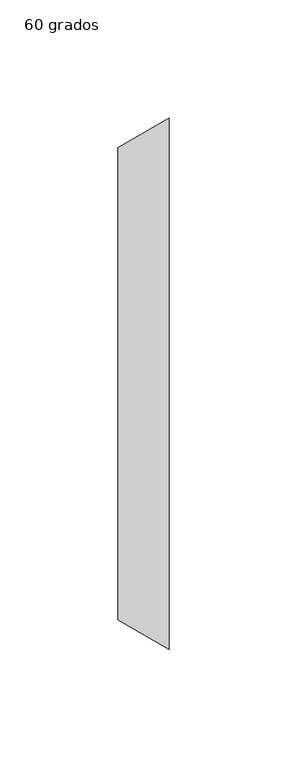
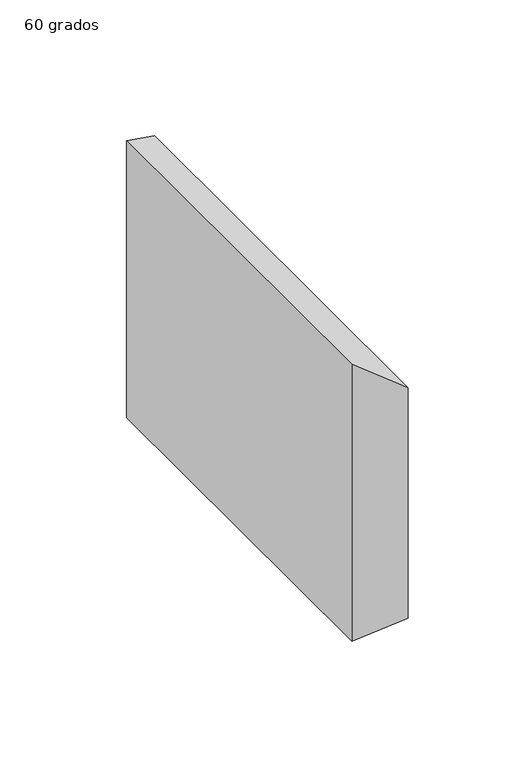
"""IFC4 building model written with IfcOpenShell, lengths in millimetres: duct fitting geometry, M_Transición rectangular - Ángulo : 60 grados."""

import ifcopenshell
import ifcopenshell.guid

model = None  # the IFC model being written
_history = None  # IfcOwnerHistory: only IFC2X3 demands one
_inside = {}  # id of a spatial element -> (the spatial element, [elements in it])
_under = {}  # id of a project, library or spatial element -> (it, [spatial elements below it])
_declared = {}  # id of a project -> (the project, [libraries it declares])
_typed = {}  # id of a type object -> (the type object, [elements of that type])
_made_of = {}  # id of a material, layer set ... -> (it, [elements and type objects made of it])


def new_model(schema):
    """Start an empty IFC model of exactly this schema.

    Asked for "IFC4X3", IfcOpenShell would pick the latest addendum, in which some entities
    have other attributes; the version numbers below select the first issue.
    IFC2X3 requires an IfcOwnerHistory on every rooted entity: one is made here for all.
    """
    global model, _history
    if schema == "IFC4X3":
        model = ifcopenshell.file(schema_version=(4, 3, 0, 0))
    else:
        model = ifcopenshell.file(schema=schema)
    _inside.clear()
    _under.clear()
    _declared.clear()
    _typed.clear()
    _made_of.clear()
    _history = None
    if model.schema == "IFC2X3":
        org = make("IfcOrganization", Name="unknown")
        user = make(
            "IfcPersonAndOrganization",
            ThePerson=make("IfcPerson", FamilyName="unknown"),
            TheOrganization=org,
        )
        app = make(
            "IfcApplication",
            ApplicationDeveloper=org,
            Version="unknown",
            ApplicationFullName="unknown",
            ApplicationIdentifier="unknown",
        )
        _history = make(
            "IfcOwnerHistory",
            OwningUser=user,
            OwningApplication=app,
            ChangeAction="ADDED",
            CreationDate=0,
        )
    return model


def make(cls, **values):
    """One entity of the class cls with the attributes given. An attribute that is None is left unset."""
    return model.create_entity(
        cls, **{name: value for name, value in values.items() if value is not None}
    )


def rooted(cls, **values):
    """An entity with a GlobalId (a new one), such as an element, a storey or a relation."""
    return make(cls, GlobalId=ifcopenshell.guid.new(), OwnerHistory=_history, **values)


def si_unit(unit_type, name, prefix=None):
    """IfcSIUnit, for example si_unit("LENGTHUNIT", "METRE", prefix="MILLI")."""
    return make("IfcSIUnit", UnitType=unit_type, Prefix=prefix, Name=name)


def assignment(units):
    """IfcUnitAssignment: the units of a project."""
    return None if units is None else make("IfcUnitAssignment", Units=units)


def point(xyz):
    """IfcCartesianPoint."""
    return None if xyz is None else make("IfcCartesianPoint", Coordinates=xyz)


def direction(xyz):
    """IfcDirection."""
    return None if xyz is None else make("IfcDirection", DirectionRatios=xyz)


def frame(location, z_axis=None, x_axis=None):
    """IfcAxis2Placement3D, a coordinate frame: its origin and axes. An axis left out is left unset."""
    return make(
        "IfcAxis2Placement3D",
        Location=point(location),
        Axis=direction(z_axis),
        RefDirection=direction(x_axis),
    )


def origin():
    """The frame at (0, 0, 0) with its axes left unset."""
    return frame((0.0, 0.0, 0.0))


def place(relative_to, where):
    """IfcLocalPlacement: puts the frame where relative to a parent placement (None: the world)."""
    return make(
        "IfcLocalPlacement", PlacementRelTo=relative_to, RelativePlacement=where
    )


def context(
    kind, dimensions, precision=None, world=None, true_north=None, identifier=None
):
    """IfcGeometricRepresentationContext, for example the 3D "Model" context."""
    return make(
        "IfcGeometricRepresentationContext",
        ContextIdentifier=identifier,
        ContextType=kind,
        CoordinateSpaceDimension=dimensions,
        Precision=precision,
        WorldCoordinateSystem=world,
        TrueNorth=true_north,
    )


def project(units=None, contexts=None):
    """IfcProject with its units and contexts."""
    return rooted(
        "IfcProject",
        Name="project",
        RepresentationContexts=contexts,
        UnitsInContext=assignment(units),
    )


def spatial(cls, under=None, at=None, **own):
    """A site, building, storey or space (cls), placed at a placement, below another one or the project."""
    s = rooted(cls, ObjectPlacement=at, **own)
    if under is not None:
        _under.setdefault(under.id(), (under, []))[1].append(s)
    return s


def faces_of(points, faces, orient=None, outer=None):
    """IfcFace entities. A face is a list of loops; a loop is a list of indices into points, from 0.

    orient and outer hold one flag for each loop. By default every Orientation is true, the
    first loop of a face is its IfcFaceOuterBound and the others are IfcFaceBound.
    """
    made = []
    for i, loops in enumerate(faces):
        bounds = []
        for j, loop in enumerate(loops):
            is_outer = j == 0 if outer is None else outer[i][j]
            bounds.append(
                make(
                    "IfcFaceOuterBound" if is_outer else "IfcFaceBound",
                    Bound=make("IfcPolyLoop", Polygon=[points[k] for k in loop]),
                    Orientation=True if orient is None else orient[i][j],
                )
            )
        made.append(make("IfcFace", Bounds=bounds))
    return made


def faceted_brep(points, faces, orient=None, outer=None, voids=None):
    """IfcFacetedBrep: a solid bounded by flat faces; with voids (closed shells), ...WithVoids."""
    shared = [point(p) for p in points]
    hull = make("IfcClosedShell", CfsFaces=faces_of(shared, faces, orient, outer))
    if voids is None:
        return make("IfcFacetedBrep", Outer=hull)
    return make(
        "IfcFacetedBrepWithVoids",
        Outer=hull,
        Voids=[
            make(cls, CfsFaces=faces_of(shared, fs, o, b)) for cls, fs, o, b in voids
        ],
    )


def shape(context_of_items, identifier, shape_type, items):
    """IfcShapeRepresentation: the items that make up one representation, for example the "Body"."""
    return make(
        "IfcShapeRepresentation",
        ContextOfItems=context_of_items,
        RepresentationIdentifier=identifier,
        RepresentationType=shape_type,
        Items=items,
    )


def source(mapping_origin, context_of_items, identifier, shape_type, items):
    """IfcRepresentationMap: a shape defined once, which mapped items show again and again."""
    return make(
        "IfcRepresentationMap",
        MappingOrigin=mapping_origin,
        MappedRepresentation=shape(context_of_items, identifier, shape_type, items),
    )


def transform(
    local_origin,
    x_axis=None,
    y_axis=None,
    z_axis=None,
    scale=None,
    scale2=None,
    scale3=None,
    uniform=True,
):
    """IfcCartesianTransformationOperator3D, or its non-uniform kind. x_axis, y_axis, z_axis: its Axis1, 2, 3."""
    if uniform:
        return make(
            "IfcCartesianTransformationOperator3D",
            Axis1=direction(x_axis),
            Axis2=direction(y_axis),
            LocalOrigin=point(local_origin),
            Scale=scale,
            Axis3=direction(z_axis),
        )
    return make(
        "IfcCartesianTransformationOperator3DnonUniform",
        Axis1=direction(x_axis),
        Axis2=direction(y_axis),
        LocalOrigin=point(local_origin),
        Scale=scale,
        Axis3=direction(z_axis),
        Scale2=scale2,
        Scale3=scale3,
    )


def mapped(mapping_source, mapping_target):
    """IfcMappedItem: shows the shape of a source again, moved by a transform."""
    return make(
        "IfcMappedItem", MappingSource=mapping_source, MappingTarget=mapping_target
    )


def made_of(thing, what):
    """Note that an element or type object is made of a material, layer set ...; save() writes the relation."""
    if what is not None:
        _made_of.setdefault(what.id(), (what, []))[1].append(thing)
    return thing


def element(
    cls,
    number,
    at=None,
    inside=None,
    cuts=None,
    type_object=None,
    material=None,
    context=None,
    identifier="Body",
    shape_type=None,
    held_by="IfcProductDefinitionShape",
    body=None,
    shapes=None,
    **own,
):
    """One element of the class cls, such as IfcWall. Its Tag is "e" and its number.

    at: its placement. inside: the storey or other place that contains it. cuts: it is an
    opening in that element (IfcRelVoidsElement). A single representation is given by context,
    identifier, shape_type and body (its items); several are given by shapes. held_by: the class
    of the entity that holds the representations. save() writes the other relations.
    """
    e = rooted(cls, Tag="e%d" % number, ObjectPlacement=at, **own)
    if body is not None:
        shapes = [shape(context, identifier, shape_type, body)]
    if shapes is not None:
        e.Representation = make(held_by, Representations=shapes)
    if inside is not None:
        _inside.setdefault(inside.id(), (inside, []))[1].append(e)
    if cuts is not None:
        rooted(
            "IfcRelVoidsElement", RelatingBuildingElement=cuts, RelatedOpeningElement=e
        )
    if type_object is not None:
        _typed.setdefault(type_object.id(), (type_object, []))[1].append(e)
    return made_of(e, material)


def aggregate(whole, parts):
    """IfcRelAggregates: a whole, such as a stair, and the parts it consists of."""
    return rooted("IfcRelAggregates", RelatingObject=whole, RelatedObjects=parts)


def save(model, path):
    """Write the relations noted so far, then the file.

    IfcRelAggregates (storeys below a building ...), IfcRelContainedInSpatialStructure (elements
    in a storey), IfcRelDefinesByType, IfcRelAssociatesMaterial and IfcRelDeclares: one each for
    every whole, place, type object, material and project.
    """
    for whole, parts in _under.values():
        aggregate(whole, parts)
    for where, things in _inside.values():
        rooted(
            "IfcRelContainedInSpatialStructure",
            RelatedElements=things,
            RelatingStructure=where,
        )
    for kind, things in _typed.values():
        rooted("IfcRelDefinesByType", RelatedObjects=things, RelatingType=kind)
    for what, things in _made_of.values():
        rooted("IfcRelAssociatesMaterial", RelatedObjects=things, RelatingMaterial=what)
    for by, libraries in _declared.values():
        rooted("IfcRelDeclares", RelatingContext=by, RelatedDefinitions=libraries)
    model.write(path)


def duct_fitting_60_grados_3273a5b7(model_context):
    return source(origin(), model_context, "Body", "Brep", [
        faceted_brep([(21.6506351, -112.5, 62.5), (21.6506351, -112.5, -62.5), (21.6506351, 112.5, -62.5), (21.6506351, 112.5, 62.5), (0.0, -100.0, 75.0), (0.0, 100.0, 75.0), (0.0, 100.0, -75.0), (0.0, -100.0, -75.0)], [[[0, 1, 2, 3]], [[4, 5, 6, 7]], [[4, 7, 1, 0]], [[7, 6, 2, 1]], [[6, 5, 3, 2]], [[5, 4, 0, 3]]]),
    ])


if __name__ == "__main__":
    model = new_model("IFC4")
    model_context = context("Model", 3, world=origin())
    ifc_project = project(units=[si_unit("LENGTHUNIT", "METRE", prefix="MILLI")], contexts=[model_context])
    site = spatial("IfcSite", under=ifc_project)
    building = spatial("IfcBuilding", under=site)
    placement = place(None, origin())
    duct_fitting_60_grados_shape = duct_fitting_60_grados_3273a5b7(model_context)
    element("IfcDuctFitting", 1, ObjectType="M_Transición rectangular - Ángulo : 60 grados", at=placement, inside=building, context=model_context, shape_type="MappedRepresentation", body=[
        mapped(duct_fitting_60_grados_shape, transform((0.0, 0.0, 0.0), x_axis=(1.0, 0.0, 0.0), y_axis=(0.0, 1.0, 0.0), z_axis=(0.0, 0.0, 1.0))),
    ])
    save(model, "model.ifc")
